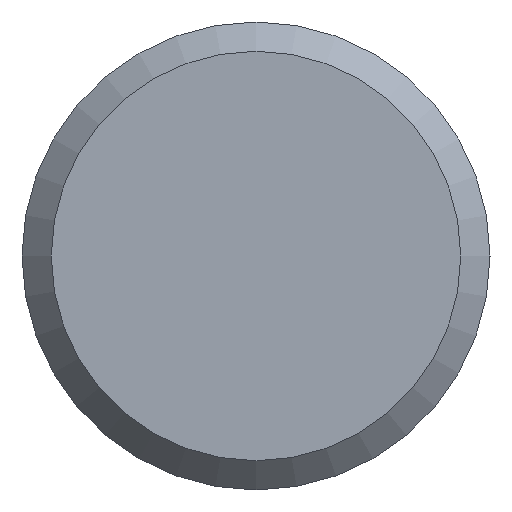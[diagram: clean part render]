
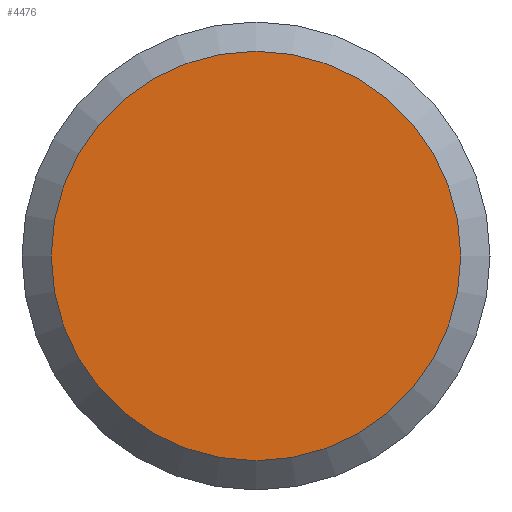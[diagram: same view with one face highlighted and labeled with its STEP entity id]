
A CAD part, left-side view. The second image highlights one B-rep face of the part: STEP entity #4476.
In plain terms, the highlighted planar face has unit normal (-1, 0, 0).
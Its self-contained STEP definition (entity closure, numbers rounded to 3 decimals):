
#1609=PLANE('',#4118);
#1667=ORIENTED_EDGE('',*,*,#2273,.F.);
#1969=CIRCLE('',#4117,3.5);
#2121=VERTEX_POINT('',#3657);
#2273=EDGE_CURVE('',#2121,#2121,#1969,.T.);
#2427=EDGE_LOOP('',(#1667));
#2731=FACE_BOUND('',#2427,.T.);
#3039=DIRECTION('',(1.,0.,0.));
#3040=DIRECTION('',(0.,-3.5,0.));
#3041=DIRECTION('',(-1.,0.,0.));
#3042=DIRECTION('',(0.,1.,0.));
#3657=CARTESIAN_POINT('',(44.029,157.193,0.));
#3658=CARTESIAN_POINT('',(44.029,160.693,0.));
#3659=CARTESIAN_POINT('',(44.029,160.693,0.));
#4117=AXIS2_PLACEMENT_3D('',#3658,#3039,#3040);
#4118=AXIS2_PLACEMENT_3D('',#3659,#3041,#3042);
#4476=ADVANCED_FACE('',(#2731),#1609,.T.);
